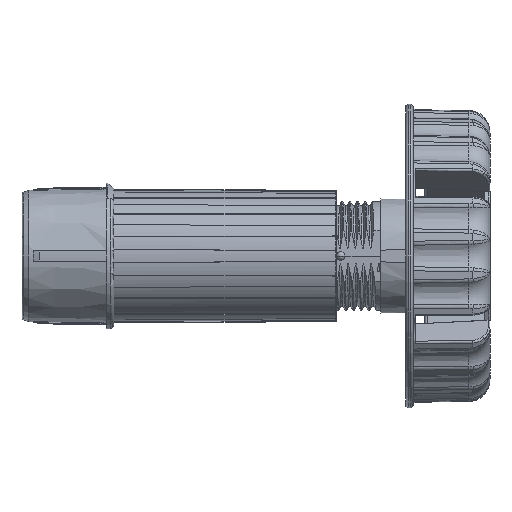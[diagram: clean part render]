
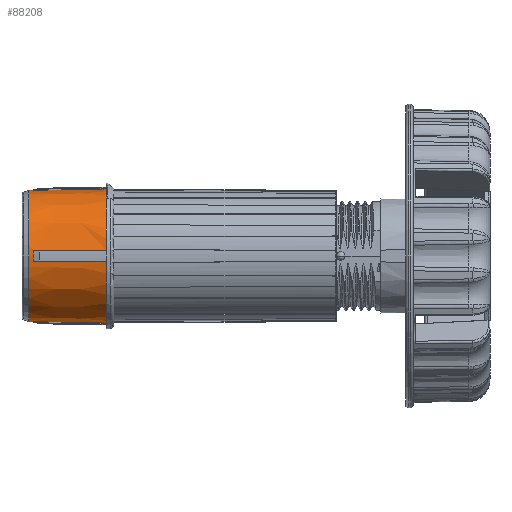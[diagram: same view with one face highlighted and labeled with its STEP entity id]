
A CAD part, left-side view. The second image highlights one B-rep face of the part: STEP entity #88208.
In plain terms, the highlighted conical face has half-angle 1 degrees and reference radius 17.285 mm.
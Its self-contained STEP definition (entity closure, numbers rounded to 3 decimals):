
#78022=CARTESIAN_POINT('',(0.,19.,0.));
#78023=DIRECTION('',(0.,-1.,0.));
#78024=DIRECTION('',(0.996,0.,-0.088));
#78025=AXIS2_PLACEMENT_3D('',#78022,#78023,#78024);
#82285=CARTESIAN_POINT('',(0.,20.09,0.));
#82286=DIRECTION('',(0.,1.,0.));
#82287=DIRECTION('',(1.,0.,0.));
#82288=AXIS2_PLACEMENT_3D('',#82285,#82286,#82287);
#82299=DIRECTION('',(-0.017,1.,0.));
#82300=VECTOR('',#82299,1.09);
#82301=CARTESIAN_POINT('',(17.128,19.,0.));
#82302=LINE('',#82301,#82300);
#82303=DIRECTION('',(0.017,1.,0.));
#82304=VECTOR('',#82303,1.09);
#82305=CARTESIAN_POINT('',(-17.128,19.,0.));
#82306=LINE('',#82305,#82304);
#82307=CARTESIAN_POINT('',(0.,0.,0.));
#82308=DIRECTION('',(0.,1.,0.));
#82309=DIRECTION('',(-0.086,0.,-0.996));
#82310=AXIS2_PLACEMENT_3D('',#82307,#82308,#82309);
#82312=CARTESIAN_POINT('',(0.,0.,0.));
#82313=DIRECTION('',(0.,1.,0.));
#82314=DIRECTION('',(0.996,0.,-0.086));
#82315=AXIS2_PLACEMENT_3D('',#82312,#82313,#82314);
#82321=CARTESIAN_POINT('',(0.,19.,0.));
#82322=DIRECTION('',(0.,-1.,0.));
#82323=DIRECTION('',(-1.,0.,0.));
#82324=AXIS2_PLACEMENT_3D('',#82321,#82322,#82323);
#82341=CARTESIAN_POINT('',(-17.395,0.,-1.5));
#82342=CARTESIAN_POINT('',(-17.358,2.117,-1.5));
#82343=CARTESIAN_POINT('',(-17.284,6.347,-1.5));
#82344=CARTESIAN_POINT('',(-17.173,12.68,-1.5));
#82345=CARTESIAN_POINT('',(-17.099,16.895,-1.5));
#82346=CARTESIAN_POINT('',(-17.063,19.,-1.5));
#82445=CARTESIAN_POINT('',(-1.5,19.,-17.063));
#82446=CARTESIAN_POINT('',(-1.5,16.895,-17.099));
#82447=CARTESIAN_POINT('',(-1.5,12.681,-17.173));
#82448=CARTESIAN_POINT('',(-1.5,6.347,-17.284));
#82449=CARTESIAN_POINT('',(-1.5,2.117,-17.358));
#82450=CARTESIAN_POINT('',(-1.5,0.,-17.395));
#82461=CARTESIAN_POINT('',(0.,19.,0.));
#82462=DIRECTION('',(0.,-1.,0.));
#82463=DIRECTION('',(-0.088,0.,-0.996));
#82464=AXIS2_PLACEMENT_3D('',#82461,#82462,#82463);
#82476=CARTESIAN_POINT('',(1.5,0.,-17.395));
#82477=CARTESIAN_POINT('',(1.5,2.117,-17.358));
#82478=CARTESIAN_POINT('',(1.5,6.347,-17.284));
#82479=CARTESIAN_POINT('',(1.5,12.68,-17.173));
#82480=CARTESIAN_POINT('',(1.5,16.895,-17.099));
#82481=CARTESIAN_POINT('',(1.5,19.,-17.063));
#82567=CARTESIAN_POINT('',(17.063,19.,-1.5));
#82568=CARTESIAN_POINT('',(17.099,16.895,-1.5));
#82569=CARTESIAN_POINT('',(17.173,12.681,-1.5));
#82570=CARTESIAN_POINT('',(17.284,6.347,-1.5));
#82571=CARTESIAN_POINT('',(17.358,2.117,-1.5));
#82572=CARTESIAN_POINT('',(17.395,0.,-1.5));
#82727=CARTESIAN_POINT('',(17.109,20.09,0.));
#82728=CARTESIAN_POINT('',(-17.109,20.09,0.));
#82729=VERTEX_POINT('',#82727);
#82730=VERTEX_POINT('',#82728);
#82738=CARTESIAN_POINT('',(-17.128,19.,0.));
#82740=VERTEX_POINT('',#82738);
#82742=CARTESIAN_POINT('',(-17.063,19.,-1.5));
#82743=VERTEX_POINT('',#82742);
#82744=VERTEX_POINT('',#82341);
#82745=CARTESIAN_POINT('',(-1.5,19.,-17.063));
#82746=CARTESIAN_POINT('',(1.5,19.,-17.063));
#82747=VERTEX_POINT('',#82745);
#82748=VERTEX_POINT('',#82746);
#82749=VERTEX_POINT('',#82476);
#82750=VERTEX_POINT('',#82450);
#82751=CARTESIAN_POINT('',(17.128,19.,0.));
#82753=VERTEX_POINT('',#82751);
#82756=CARTESIAN_POINT('',(17.063,19.,-1.5));
#82757=VERTEX_POINT('',#82756);
#82758=VERTEX_POINT('',#82572);
#88183=CARTESIAN_POINT('',(0.,10.045,0.));
#88184=DIRECTION('',(0.,-1.,0.));
#88185=DIRECTION('',(-1.,0.,0.));
#88186=AXIS2_PLACEMENT_3D('',#88183,#88184,#88185);
#88187=CONICAL_SURFACE('',#88186,17.285,1.);
#88188=ORIENTED_EDGE('',*,*,#83380,.T.);
#88189=ORIENTED_EDGE('',*,*,#83365,.T.);
#88190=ORIENTED_EDGE('',*,*,#88164,.T.);
#88191=ORIENTED_EDGE('',*,*,#83361,.F.);
#88193=ORIENTED_EDGE('',*,*,#88192,.T.);
#88195=ORIENTED_EDGE('',*,*,#88194,.F.);
#88196=ORIENTED_EDGE('',*,*,#83632,.F.);
#88198=ORIENTED_EDGE('',*,*,#88197,.F.);
#88200=ORIENTED_EDGE('',*,*,#88199,.T.);
#88202=ORIENTED_EDGE('',*,*,#88201,.F.);
#88203=ORIENTED_EDGE('',*,*,#83620,.F.);
#88205=ORIENTED_EDGE('',*,*,#88204,.F.);
#88206=EDGE_LOOP('',(#88188,#88189,#88190,#88191,#88193,#88195,#88196,#88198,
#88200,#88202,#88203,#88205));
#88207=FACE_OUTER_BOUND('',#88206,.F.);
#88208=ADVANCED_FACE('',(#88207),#88187,.T.);
#78026=CIRCLE('',#78025,17.128);
#82289=CIRCLE('',#82288,17.109);
#82311=CIRCLE('',#82310,17.46);
#82316=CIRCLE('',#82315,17.46);
#82325=CIRCLE('',#82324,17.128);
#82347=B_SPLINE_CURVE_WITH_KNOTS('',3,(#82341,#82342,#82343,#82344,#82345,
#82346),.UNSPECIFIED.,.F.,.F.,(4,1,1,4),(0.,0.333,
0.667,1.),.UNSPECIFIED.);
#82451=B_SPLINE_CURVE_WITH_KNOTS('',3,(#82445,#82446,#82447,#82448,#82449,
#82450),.UNSPECIFIED.,.F.,.F.,(4,1,1,4),(0.,0.333,
0.667,1.),.UNSPECIFIED.);
#82465=CIRCLE('',#82464,17.128);
#82482=B_SPLINE_CURVE_WITH_KNOTS('',3,(#82476,#82477,#82478,#82479,#82480,
#82481),.UNSPECIFIED.,.F.,.F.,(4,1,1,4),(0.,0.333,
0.667,1.),.UNSPECIFIED.);
#82573=B_SPLINE_CURVE_WITH_KNOTS('',3,(#82567,#82568,#82569,#82570,#82571,
#82572),.UNSPECIFIED.,.F.,.F.,(4,1,1,4),(0.,0.333,
0.667,1.),.UNSPECIFIED.);
#83361=EDGE_CURVE('',#82740,#82730,#82306,.T.);
#83365=EDGE_CURVE('',#82753,#82729,#82302,.T.);
#83380=EDGE_CURVE('',#82757,#82753,#78026,.T.);
#83620=EDGE_CURVE('',#82758,#82749,#82316,.T.);
#83632=EDGE_CURVE('',#82750,#82744,#82311,.T.);
#88164=EDGE_CURVE('',#82729,#82730,#82289,.T.);
#88192=EDGE_CURVE('',#82740,#82743,#82325,.T.);
#88194=EDGE_CURVE('',#82744,#82743,#82347,.T.);
#88197=EDGE_CURVE('',#82747,#82750,#82451,.T.);
#88199=EDGE_CURVE('',#82747,#82748,#82465,.T.);
#88201=EDGE_CURVE('',#82749,#82748,#82482,.T.);
#88204=EDGE_CURVE('',#82757,#82758,#82573,.T.);
